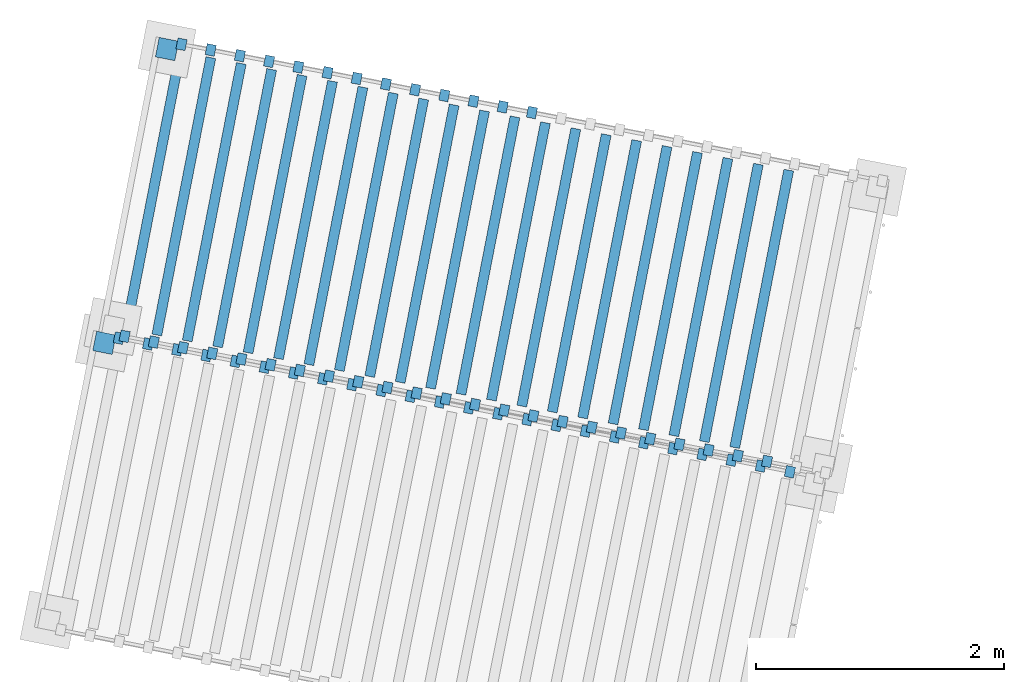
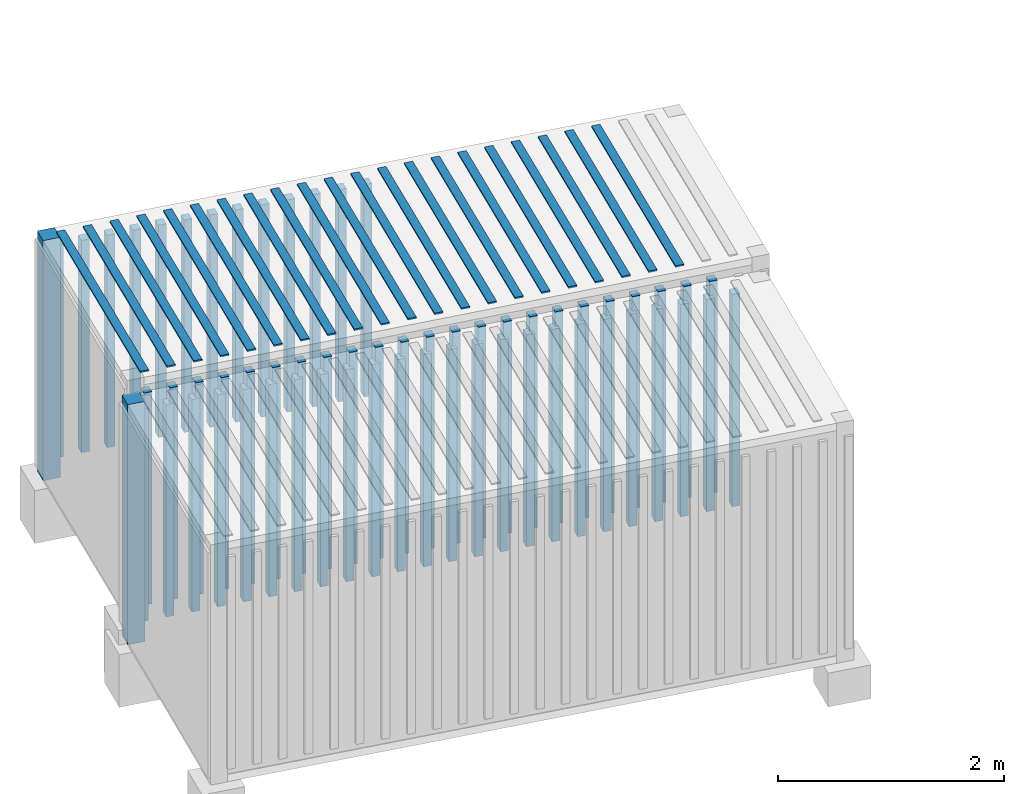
# One storey, part 85 of 143: 83 members, 2 elements without a shape of their own.
"""IFC4 building model written with IfcOpenShell, lengths in metres."""

from ifc_helpers import new_model, si_unit, direction, frame, origin_with_axes, place, context, subcontext, project, spatial, polyline, outline, extrude, material, element, aggregate, save


model = new_model("IFC4")

# Units and contexts
model_context = context("Model", 3, precision=1e-05, world=origin_with_axes(), true_north=direction((0.0, 1.0)))
body_context = subcontext(model_context, "Body", "Model", "MODEL_VIEW")
ifc_project = project(units=[si_unit("VOLUMEUNIT", "CUBIC_METRE"), si_unit("LENGTHUNIT", "METRE"), si_unit("AREAUNIT", "SQUARE_METRE")], contexts=[model_context])

# Site, building, storey
site_placement = place(None, origin_with_axes())
site = spatial("IfcSite", under=ifc_project, at=site_placement, Name="Lares · Rua das Mercês · artigo 4771")
building_placement = place(site_placement, frame((15.0, 9.7, 15.8), z_axis=(0.0, 0.0, 1.0), x_axis=(0.989015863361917, -0.147809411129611, 0.0)))
building = spatial("IfcBuilding", under=site, at=building_placement, Name="Casa Sobreposta")
storey_placement = place(building_placement, origin_with_axes())
storey = spatial("IfcBuildingStorey", under=building, at=storey_placement, Name="00 · Habitação e estacionamento", Elevation=15.8)

# Assembly, members
assembly_1_placement = place(storey_placement, frame((-14.4335953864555, 9.04888612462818, 0.0), z_axis=(0.0, 0.0, 1.0), x_axis=(0.999032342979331, -0.0439815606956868, 0.0)))
assembly_1 = element("IfcElementAssembly", 1, at=assembly_1_placement, inside=storey, Name="Contentor existente 1 · 6 m", ObjectType="EXISTING_SHIPPING_CONTAINER", PredefinedType="USERDEFINED")
ifc_material_1 = material(Name="Contentor · pintura 1", Category="steel")
member_1_placement = place(assembly_1_placement, frame((0.0, 0.0, -2.16314181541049), z_axis=(0.0, 0.0, 1.0), x_axis=(1.0, 0.0, 0.0)))
member_1 = element("IfcMember", 2, at=member_1_placement, material=ifc_material_1, Name="Contentor · canto", context=body_context, shape_type="SweptSolid", body=[
    extrude(outline(polyline([(0.16, 2.28), (0.16, 2.44), (0.0, 2.44), (0.0, 2.28), (0.16, 2.28)])), origin_with_axes(), (0.0, 0.0, 1.0), 2.59),
])
member_2_placement = place(assembly_1_placement, frame((0.0, 0.0, -2.01314181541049), z_axis=(0.0, 0.0, 1.0), x_axis=(1.0, 0.0, 0.0)))
member_2 = element("IfcMember", 3, at=member_2_placement, material=ifc_material_1, Name="Contentor · nervura lateral", context=body_context, shape_type="SweptSolid", body=[
    extrude(outline(polyline([(0.225, -0.025), (0.225, 0.065), (0.15, 0.065), (0.15, -0.025), (0.225, -0.025)])), origin_with_axes(), (0.0, 0.0, 1.0), 2.29),
])
member_3_placement = place(assembly_1_placement, frame((0.0, 0.0, -2.01314181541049), z_axis=(0.0, 0.0, 1.0), x_axis=(1.0, 0.0, 0.0)))
member_3 = element("IfcMember", 4, at=member_3_placement, material=ifc_material_1, Name="Contentor · nervura lateral", context=body_context, shape_type="SweptSolid", body=[
    extrude(outline(polyline([(0.465, -0.025), (0.465, 0.065), (0.39, 0.065), (0.39, -0.025), (0.465, -0.025)])), origin_with_axes(), (0.0, 0.0, 1.0), 2.29),
])
member_4_placement = place(assembly_1_placement, frame((0.0, 0.0, -2.01314181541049), z_axis=(0.0, 0.0, 1.0), x_axis=(1.0, 0.0, 0.0)))
member_4 = element("IfcMember", 5, at=member_4_placement, material=ifc_material_1, Name="Contentor · nervura lateral", context=body_context, shape_type="SweptSolid", body=[
    extrude(outline(polyline([(0.705, -0.025), (0.705, 0.065), (0.63, 0.065), (0.63, -0.025), (0.705, -0.025)])), origin_with_axes(), (0.0, 0.0, 1.0), 2.29),
])
member_5_placement = place(assembly_1_placement, frame((0.0, 0.0, -2.01314181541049), z_axis=(0.0, 0.0, 1.0), x_axis=(1.0, 0.0, 0.0)))
member_5 = element("IfcMember", 6, at=member_5_placement, material=ifc_material_1, Name="Contentor · nervura lateral", context=body_context, shape_type="SweptSolid", body=[
    extrude(outline(polyline([(0.945, -0.025), (0.945, 0.065), (0.87, 0.065), (0.87, -0.025), (0.945, -0.025)])), origin_with_axes(), (0.0, 0.0, 1.0), 2.29),
])
member_6_placement = place(assembly_1_placement, frame((0.0, 0.0, -2.01314181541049), z_axis=(0.0, 0.0, 1.0), x_axis=(1.0, 0.0, 0.0)))
member_6 = element("IfcMember", 7, at=member_6_placement, material=ifc_material_1, Name="Contentor · nervura lateral", context=body_context, shape_type="SweptSolid", body=[
    extrude(outline(polyline([(1.185, -0.025), (1.185, 0.065), (1.11, 0.065), (1.11, -0.025), (1.185, -0.025)])), origin_with_axes(), (0.0, 0.0, 1.0), 2.29),
])
member_7_placement = place(assembly_1_placement, frame((0.0, 0.0, -2.01314181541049), z_axis=(0.0, 0.0, 1.0), x_axis=(1.0, 0.0, 0.0)))
member_7 = element("IfcMember", 8, at=member_7_placement, material=ifc_material_1, Name="Contentor · nervura lateral", context=body_context, shape_type="SweptSolid", body=[
    extrude(outline(polyline([(1.425, -0.025), (1.425, 0.065), (1.35, 0.065), (1.35, -0.025), (1.425, -0.025)])), origin_with_axes(), (0.0, 0.0, 1.0), 2.29),
])
member_8_placement = place(assembly_1_placement, frame((0.0, 0.0, -2.01314181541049), z_axis=(0.0, 0.0, 1.0), x_axis=(1.0, 0.0, 0.0)))
member_8 = element("IfcMember", 9, at=member_8_placement, material=ifc_material_1, Name="Contentor · nervura lateral", context=body_context, shape_type="SweptSolid", body=[
    extrude(outline(polyline([(1.665, -0.025), (1.665, 0.065), (1.59, 0.065), (1.59, -0.025), (1.665, -0.025)])), origin_with_axes(), (0.0, 0.0, 1.0), 2.29),
])
member_9_placement = place(assembly_1_placement, frame((0.0, 0.0, -2.01314181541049), z_axis=(0.0, 0.0, 1.0), x_axis=(1.0, 0.0, 0.0)))
member_9 = element("IfcMember", 10, at=member_9_placement, material=ifc_material_1, Name="Contentor · nervura lateral", context=body_context, shape_type="SweptSolid", body=[
    extrude(outline(polyline([(1.905, -0.025), (1.905, 0.065), (1.83, 0.065), (1.83, -0.025), (1.905, -0.025)])), origin_with_axes(), (0.0, 0.0, 1.0), 2.29),
])
member_10_placement = place(assembly_1_placement, frame((0.0, 0.0, -2.01314181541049), z_axis=(0.0, 0.0, 1.0), x_axis=(1.0, 0.0, 0.0)))
member_10 = element("IfcMember", 11, at=member_10_placement, material=ifc_material_1, Name="Contentor · nervura lateral", context=body_context, shape_type="SweptSolid", body=[
    extrude(outline(polyline([(2.145, -0.025), (2.145, 0.065), (2.07, 0.065), (2.07, -0.025), (2.145, -0.025)])), origin_with_axes(), (0.0, 0.0, 1.0), 2.29),
])
member_11_placement = place(assembly_1_placement, frame((0.0, 0.0, -2.01314181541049), z_axis=(0.0, 0.0, 1.0), x_axis=(1.0, 0.0, 0.0)))
member_11 = element("IfcMember", 12, at=member_11_placement, material=ifc_material_1, Name="Contentor · nervura lateral", context=body_context, shape_type="SweptSolid", body=[
    extrude(outline(polyline([(2.385, -0.025), (2.385, 0.065), (2.31, 0.065), (2.31, -0.025), (2.385, -0.025)])), origin_with_axes(), (0.0, 0.0, 1.0), 2.29),
])
member_12_placement = place(assembly_1_placement, frame((0.0, 0.0, -2.01314181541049), z_axis=(0.0, 0.0, 1.0), x_axis=(1.0, 0.0, 0.0)))
member_12 = element("IfcMember", 13, at=member_12_placement, material=ifc_material_1, Name="Contentor · nervura lateral", context=body_context, shape_type="SweptSolid", body=[
    extrude(outline(polyline([(2.625, -0.025), (2.625, 0.065), (2.55, 0.065), (2.55, -0.025), (2.625, -0.025)])), origin_with_axes(), (0.0, 0.0, 1.0), 2.29),
])
member_13_placement = place(assembly_1_placement, frame((0.0, 0.0, -2.01314181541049), z_axis=(0.0, 0.0, 1.0), x_axis=(1.0, 0.0, 0.0)))
member_13 = element("IfcMember", 14, at=member_13_placement, material=ifc_material_1, Name="Contentor · nervura lateral", context=body_context, shape_type="SweptSolid", body=[
    extrude(outline(polyline([(2.865, -0.025), (2.865, 0.065), (2.79, 0.065), (2.79, -0.025), (2.865, -0.025)])), origin_with_axes(), (0.0, 0.0, 1.0), 2.29),
])
member_14_placement = place(assembly_1_placement, frame((0.0, 0.0, -2.01314181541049), z_axis=(0.0, 0.0, 1.0), x_axis=(1.0, 0.0, 0.0)))
member_14 = element("IfcMember", 15, at=member_14_placement, material=ifc_material_1, Name="Contentor · nervura lateral", context=body_context, shape_type="SweptSolid", body=[
    extrude(outline(polyline([(3.105, -0.025), (3.105, 0.065), (3.03, 0.065), (3.03, -0.025), (3.105, -0.025)])), origin_with_axes(), (0.0, 0.0, 1.0), 2.29),
])
member_15_placement = place(assembly_1_placement, frame((0.0, 0.0, -2.01314181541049), z_axis=(0.0, 0.0, 1.0), x_axis=(1.0, 0.0, 0.0)))
member_15 = element("IfcMember", 16, at=member_15_placement, material=ifc_material_1, Name="Contentor · nervura lateral", context=body_context, shape_type="SweptSolid", body=[
    extrude(outline(polyline([(3.345, -0.025), (3.345, 0.065), (3.27, 0.065), (3.27, -0.025), (3.345, -0.025)])), origin_with_axes(), (0.0, 0.0, 1.0), 2.29),
])
member_16_placement = place(assembly_1_placement, frame((0.0, 0.0, -2.01314181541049), z_axis=(0.0, 0.0, 1.0), x_axis=(1.0, 0.0, 0.0)))
member_16 = element("IfcMember", 17, at=member_16_placement, material=ifc_material_1, Name="Contentor · nervura lateral", context=body_context, shape_type="SweptSolid", body=[
    extrude(outline(polyline([(3.585, -0.025), (3.585, 0.065), (3.51, 0.065), (3.51, -0.025), (3.585, -0.025)])), origin_with_axes(), (0.0, 0.0, 1.0), 2.29),
])
member_17_placement = place(assembly_1_placement, frame((0.0, 0.0, -2.01314181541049), z_axis=(0.0, 0.0, 1.0), x_axis=(1.0, 0.0, 0.0)))
member_17 = element("IfcMember", 18, at=member_17_placement, material=ifc_material_1, Name="Contentor · nervura lateral", context=body_context, shape_type="SweptSolid", body=[
    extrude(outline(polyline([(3.825, -0.025), (3.825, 0.065), (3.75, 0.065), (3.75, -0.025), (3.825, -0.025)])), origin_with_axes(), (0.0, 0.0, 1.0), 2.29),
])
member_18_placement = place(assembly_1_placement, frame((0.0, 0.0, -2.01314181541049), z_axis=(0.0, 0.0, 1.0), x_axis=(1.0, 0.0, 0.0)))
member_18 = element("IfcMember", 19, at=member_18_placement, material=ifc_material_1, Name="Contentor · nervura lateral", context=body_context, shape_type="SweptSolid", body=[
    extrude(outline(polyline([(4.065, -0.025), (4.065, 0.065), (3.99, 0.065), (3.99, -0.025), (4.065, -0.025)])), origin_with_axes(), (0.0, 0.0, 1.0), 2.29),
])
member_19_placement = place(assembly_1_placement, frame((0.0, 0.0, -2.01314181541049), z_axis=(0.0, 0.0, 1.0), x_axis=(1.0, 0.0, 0.0)))
member_19 = element("IfcMember", 20, at=member_19_placement, material=ifc_material_1, Name="Contentor · nervura lateral", context=body_context, shape_type="SweptSolid", body=[
    extrude(outline(polyline([(4.305, -0.025), (4.305, 0.065), (4.23, 0.065), (4.23, -0.025), (4.305, -0.025)])), origin_with_axes(), (0.0, 0.0, 1.0), 2.29),
])
member_20_placement = place(assembly_1_placement, frame((0.0, 0.0, -2.01314181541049), z_axis=(0.0, 0.0, 1.0), x_axis=(1.0, 0.0, 0.0)))
member_20 = element("IfcMember", 21, at=member_20_placement, material=ifc_material_1, Name="Contentor · nervura lateral", context=body_context, shape_type="SweptSolid", body=[
    extrude(outline(polyline([(4.545, -0.025), (4.545, 0.065), (4.47, 0.065), (4.47, -0.025), (4.545, -0.025)])), origin_with_axes(), (0.0, 0.0, 1.0), 2.29),
])
member_21_placement = place(assembly_1_placement, frame((0.0, 0.0, -2.01314181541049), z_axis=(0.0, 0.0, 1.0), x_axis=(1.0, 0.0, 0.0)))
member_21 = element("IfcMember", 22, at=member_21_placement, material=ifc_material_1, Name="Contentor · nervura lateral", context=body_context, shape_type="SweptSolid", body=[
    extrude(outline(polyline([(4.785, -0.025), (4.785, 0.065), (4.71, 0.065), (4.71, -0.025), (4.785, -0.025)])), origin_with_axes(), (0.0, 0.0, 1.0), 2.29),
])
member_22_placement = place(assembly_1_placement, frame((0.0, 0.0, -2.01314181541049), z_axis=(0.0, 0.0, 1.0), x_axis=(1.0, 0.0, 0.0)))
member_22 = element("IfcMember", 23, at=member_22_placement, material=ifc_material_1, Name="Contentor · nervura lateral", context=body_context, shape_type="SweptSolid", body=[
    extrude(outline(polyline([(5.025, -0.025), (5.025, 0.065), (4.95, 0.065), (4.95, -0.025), (5.025, -0.025)])), origin_with_axes(), (0.0, 0.0, 1.0), 2.29),
])
member_23_placement = place(assembly_1_placement, frame((0.0, 0.0, -2.01314181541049), z_axis=(0.0, 0.0, 1.0), x_axis=(1.0, 0.0, 0.0)))
member_23 = element("IfcMember", 24, at=member_23_placement, material=ifc_material_1, Name="Contentor · nervura lateral", context=body_context, shape_type="SweptSolid", body=[
    extrude(outline(polyline([(5.265, -0.025), (5.265, 0.065), (5.19, 0.065), (5.19, -0.025), (5.265, -0.025)])), origin_with_axes(), (0.0, 0.0, 1.0), 2.29),
])
member_24_placement = place(assembly_1_placement, frame((0.0, 0.0, -2.01314181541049), z_axis=(0.0, 0.0, 1.0), x_axis=(1.0, 0.0, 0.0)))
member_24 = element("IfcMember", 25, at=member_24_placement, material=ifc_material_1, Name="Contentor · nervura lateral", context=body_context, shape_type="SweptSolid", body=[
    extrude(outline(polyline([(5.505, -0.025), (5.505, 0.065), (5.43, 0.065), (5.43, -0.025), (5.505, -0.025)])), origin_with_axes(), (0.0, 0.0, 1.0), 2.29),
])
member_25_placement = place(assembly_1_placement, frame((0.0, 0.0, -2.01314181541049), z_axis=(0.0, 0.0, 1.0), x_axis=(1.0, 0.0, 0.0)))
member_25 = element("IfcMember", 26, at=member_25_placement, material=ifc_material_1, Name="Contentor · nervura lateral", context=body_context, shape_type="SweptSolid", body=[
    extrude(outline(polyline([(0.225, 2.375), (0.225, 2.465), (0.15, 2.465), (0.15, 2.375), (0.225, 2.375)])), origin_with_axes(), (0.0, 0.0, 1.0), 2.29),
])
member_26_placement = place(assembly_1_placement, frame((0.0, 0.0, -2.01314181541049), z_axis=(0.0, 0.0, 1.0), x_axis=(1.0, 0.0, 0.0)))
member_26 = element("IfcMember", 27, at=member_26_placement, material=ifc_material_1, Name="Contentor · nervura lateral", context=body_context, shape_type="SweptSolid", body=[
    extrude(outline(polyline([(0.465, 2.375), (0.465, 2.465), (0.39, 2.465), (0.39, 2.375), (0.465, 2.375)])), origin_with_axes(), (0.0, 0.0, 1.0), 2.29),
])
member_27_placement = place(assembly_1_placement, frame((0.0, 0.0, -2.01314181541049), z_axis=(0.0, 0.0, 1.0), x_axis=(1.0, 0.0, 0.0)))
member_27 = element("IfcMember", 28, at=member_27_placement, material=ifc_material_1, Name="Contentor · nervura lateral", context=body_context, shape_type="SweptSolid", body=[
    extrude(outline(polyline([(0.705, 2.375), (0.705, 2.465), (0.63, 2.465), (0.63, 2.375), (0.705, 2.375)])), origin_with_axes(), (0.0, 0.0, 1.0), 2.29),
])
member_28_placement = place(assembly_1_placement, frame((0.0, 0.0, -2.01314181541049), z_axis=(0.0, 0.0, 1.0), x_axis=(1.0, 0.0, 0.0)))
member_28 = element("IfcMember", 29, at=member_28_placement, material=ifc_material_1, Name="Contentor · nervura lateral", context=body_context, shape_type="SweptSolid", body=[
    extrude(outline(polyline([(0.945, 2.375), (0.945, 2.465), (0.87, 2.465), (0.87, 2.375), (0.945, 2.375)])), origin_with_axes(), (0.0, 0.0, 1.0), 2.29),
])
member_29_placement = place(assembly_1_placement, frame((0.0, 0.0, -2.01314181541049), z_axis=(0.0, 0.0, 1.0), x_axis=(1.0, 0.0, 0.0)))
member_29 = element("IfcMember", 30, at=member_29_placement, material=ifc_material_1, Name="Contentor · nervura lateral", context=body_context, shape_type="SweptSolid", body=[
    extrude(outline(polyline([(1.185, 2.375), (1.185, 2.465), (1.11, 2.465), (1.11, 2.375), (1.185, 2.375)])), origin_with_axes(), (0.0, 0.0, 1.0), 2.29),
])
member_30_placement = place(assembly_1_placement, frame((0.0, 0.0, -2.01314181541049), z_axis=(0.0, 0.0, 1.0), x_axis=(1.0, 0.0, 0.0)))
member_30 = element("IfcMember", 31, at=member_30_placement, material=ifc_material_1, Name="Contentor · nervura lateral", context=body_context, shape_type="SweptSolid", body=[
    extrude(outline(polyline([(1.425, 2.375), (1.425, 2.465), (1.35, 2.465), (1.35, 2.375), (1.425, 2.375)])), origin_with_axes(), (0.0, 0.0, 1.0), 2.29),
])
member_31_placement = place(assembly_1_placement, frame((0.0, 0.0, -2.01314181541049), z_axis=(0.0, 0.0, 1.0), x_axis=(1.0, 0.0, 0.0)))
member_31 = element("IfcMember", 32, at=member_31_placement, material=ifc_material_1, Name="Contentor · nervura lateral", context=body_context, shape_type="SweptSolid", body=[
    extrude(outline(polyline([(1.665, 2.375), (1.665, 2.465), (1.59, 2.465), (1.59, 2.375), (1.665, 2.375)])), origin_with_axes(), (0.0, 0.0, 1.0), 2.29),
])
member_32_placement = place(assembly_1_placement, frame((0.0, 0.0, -2.01314181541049), z_axis=(0.0, 0.0, 1.0), x_axis=(1.0, 0.0, 0.0)))
member_32 = element("IfcMember", 33, at=member_32_placement, material=ifc_material_1, Name="Contentor · nervura lateral", context=body_context, shape_type="SweptSolid", body=[
    extrude(outline(polyline([(1.905, 2.375), (1.905, 2.465), (1.83, 2.465), (1.83, 2.375), (1.905, 2.375)])), origin_with_axes(), (0.0, 0.0, 1.0), 2.29),
])
member_33_placement = place(assembly_1_placement, frame((0.0, 0.0, -2.01314181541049), z_axis=(0.0, 0.0, 1.0), x_axis=(1.0, 0.0, 0.0)))
member_33 = element("IfcMember", 34, at=member_33_placement, material=ifc_material_1, Name="Contentor · nervura lateral", context=body_context, shape_type="SweptSolid", body=[
    extrude(outline(polyline([(2.145, 2.375), (2.145, 2.465), (2.07, 2.465), (2.07, 2.375), (2.145, 2.375)])), origin_with_axes(), (0.0, 0.0, 1.0), 2.29),
])
member_34_placement = place(assembly_1_placement, frame((0.0, 0.0, -2.01314181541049), z_axis=(0.0, 0.0, 1.0), x_axis=(1.0, 0.0, 0.0)))
member_34 = element("IfcMember", 35, at=member_34_placement, material=ifc_material_1, Name="Contentor · nervura lateral", context=body_context, shape_type="SweptSolid", body=[
    extrude(outline(polyline([(2.385, 2.375), (2.385, 2.465), (2.31, 2.465), (2.31, 2.375), (2.385, 2.375)])), origin_with_axes(), (0.0, 0.0, 1.0), 2.29),
])
member_35_placement = place(assembly_1_placement, frame((0.0, 0.0, -2.01314181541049), z_axis=(0.0, 0.0, 1.0), x_axis=(1.0, 0.0, 0.0)))
member_35 = element("IfcMember", 36, at=member_35_placement, material=ifc_material_1, Name="Contentor · nervura lateral", context=body_context, shape_type="SweptSolid", body=[
    extrude(outline(polyline([(2.625, 2.375), (2.625, 2.465), (2.55, 2.465), (2.55, 2.375), (2.625, 2.375)])), origin_with_axes(), (0.0, 0.0, 1.0), 2.29),
])
member_36_placement = place(assembly_1_placement, frame((0.0, 0.0, -2.01314181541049), z_axis=(0.0, 0.0, 1.0), x_axis=(1.0, 0.0, 0.0)))
member_36 = element("IfcMember", 37, at=member_36_placement, material=ifc_material_1, Name="Contentor · nervura lateral", context=body_context, shape_type="SweptSolid", body=[
    extrude(outline(polyline([(2.865, 2.375), (2.865, 2.465), (2.79, 2.465), (2.79, 2.375), (2.865, 2.375)])), origin_with_axes(), (0.0, 0.0, 1.0), 2.29),
])
member_37_placement = place(assembly_1_placement, frame((0.0, 0.0, -2.01314181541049), z_axis=(0.0, 0.0, 1.0), x_axis=(1.0, 0.0, 0.0)))
member_37 = element("IfcMember", 38, at=member_37_placement, material=ifc_material_1, Name="Contentor · nervura lateral", context=body_context, shape_type="SweptSolid", body=[
    extrude(outline(polyline([(3.105, 2.375), (3.105, 2.465), (3.03, 2.465), (3.03, 2.375), (3.105, 2.375)])), origin_with_axes(), (0.0, 0.0, 1.0), 2.29),
])
member_38_placement = place(assembly_1_placement, frame((0.0, 0.0, 0.421858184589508), z_axis=(0.0, 0.0, 1.0), x_axis=(1.0, 0.0, 0.0)))
member_38 = element("IfcMember", 39, at=member_38_placement, material=ifc_material_1, Name="Contentor · nervura cobertura", context=body_context, shape_type="SweptSolid", body=[
    extrude(outline(polyline([(0.23, 0.08), (0.23, 2.36), (0.15, 2.36), (0.15, 0.08), (0.23, 0.08)])), origin_with_axes(), (0.0, 0.0, 1.0), 0.018),
])
member_39_placement = place(assembly_1_placement, frame((0.0, 0.0, 0.421858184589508), z_axis=(0.0, 0.0, 1.0), x_axis=(1.0, 0.0, 0.0)))
member_39 = element("IfcMember", 40, at=member_39_placement, material=ifc_material_1, Name="Contentor · nervura cobertura", context=body_context, shape_type="SweptSolid", body=[
    extrude(outline(polyline([(0.48, 0.08), (0.48, 2.36), (0.4, 2.36), (0.4, 0.08), (0.48, 0.08)])), origin_with_axes(), (0.0, 0.0, 1.0), 0.018),
])
member_40_placement = place(assembly_1_placement, frame((0.0, 0.0, 0.421858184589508), z_axis=(0.0, 0.0, 1.0), x_axis=(1.0, 0.0, 0.0)))
member_40 = element("IfcMember", 41, at=member_40_placement, material=ifc_material_1, Name="Contentor · nervura cobertura", context=body_context, shape_type="SweptSolid", body=[
    extrude(outline(polyline([(0.73, 0.08), (0.73, 2.36), (0.65, 2.36), (0.65, 0.08), (0.73, 0.08)])), origin_with_axes(), (0.0, 0.0, 1.0), 0.018),
])
member_41_placement = place(assembly_1_placement, frame((0.0, 0.0, 0.421858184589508), z_axis=(0.0, 0.0, 1.0), x_axis=(1.0, 0.0, 0.0)))
member_41 = element("IfcMember", 42, at=member_41_placement, material=ifc_material_1, Name="Contentor · nervura cobertura", context=body_context, shape_type="SweptSolid", body=[
    extrude(outline(polyline([(0.98, 0.08), (0.98, 2.36), (0.9, 2.36), (0.9, 0.08), (0.98, 0.08)])), origin_with_axes(), (0.0, 0.0, 1.0), 0.018),
])
member_42_placement = place(assembly_1_placement, frame((0.0, 0.0, 0.421858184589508), z_axis=(0.0, 0.0, 1.0), x_axis=(1.0, 0.0, 0.0)))
member_42 = element("IfcMember", 43, at=member_42_placement, material=ifc_material_1, Name="Contentor · nervura cobertura", context=body_context, shape_type="SweptSolid", body=[
    extrude(outline(polyline([(1.23, 0.08), (1.23, 2.36), (1.15, 2.36), (1.15, 0.08), (1.23, 0.08)])), origin_with_axes(), (0.0, 0.0, 1.0), 0.018),
])
member_43_placement = place(assembly_1_placement, frame((0.0, 0.0, 0.421858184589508), z_axis=(0.0, 0.0, 1.0), x_axis=(1.0, 0.0, 0.0)))
member_43 = element("IfcMember", 44, at=member_43_placement, material=ifc_material_1, Name="Contentor · nervura cobertura", context=body_context, shape_type="SweptSolid", body=[
    extrude(outline(polyline([(1.48, 0.08), (1.48, 2.36), (1.4, 2.36), (1.4, 0.08), (1.48, 0.08)])), origin_with_axes(), (0.0, 0.0, 1.0), 0.018),
])
member_44_placement = place(assembly_1_placement, frame((0.0, 0.0, 0.421858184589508), z_axis=(0.0, 0.0, 1.0), x_axis=(1.0, 0.0, 0.0)))
member_44 = element("IfcMember", 45, at=member_44_placement, material=ifc_material_1, Name="Contentor · nervura cobertura", context=body_context, shape_type="SweptSolid", body=[
    extrude(outline(polyline([(1.73, 0.08), (1.73, 2.36), (1.65, 2.36), (1.65, 0.08), (1.73, 0.08)])), origin_with_axes(), (0.0, 0.0, 1.0), 0.018),
])
member_45_placement = place(assembly_1_placement, frame((0.0, 0.0, 0.421858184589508), z_axis=(0.0, 0.0, 1.0), x_axis=(1.0, 0.0, 0.0)))
member_45 = element("IfcMember", 46, at=member_45_placement, material=ifc_material_1, Name="Contentor · nervura cobertura", context=body_context, shape_type="SweptSolid", body=[
    extrude(outline(polyline([(1.98, 0.08), (1.98, 2.36), (1.9, 2.36), (1.9, 0.08), (1.98, 0.08)])), origin_with_axes(), (0.0, 0.0, 1.0), 0.018),
])
member_46_placement = place(assembly_1_placement, frame((0.0, 0.0, 0.421858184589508), z_axis=(0.0, 0.0, 1.0), x_axis=(1.0, 0.0, 0.0)))
member_46 = element("IfcMember", 47, at=member_46_placement, material=ifc_material_1, Name="Contentor · nervura cobertura", context=body_context, shape_type="SweptSolid", body=[
    extrude(outline(polyline([(2.23, 0.08), (2.23, 2.36), (2.15, 2.36), (2.15, 0.08), (2.23, 0.08)])), origin_with_axes(), (0.0, 0.0, 1.0), 0.018),
])
member_47_placement = place(assembly_1_placement, frame((0.0, 0.0, 0.421858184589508), z_axis=(0.0, 0.0, 1.0), x_axis=(1.0, 0.0, 0.0)))
member_47 = element("IfcMember", 48, at=member_47_placement, material=ifc_material_1, Name="Contentor · nervura cobertura", context=body_context, shape_type="SweptSolid", body=[
    extrude(outline(polyline([(2.48, 0.08), (2.48, 2.36), (2.4, 2.36), (2.4, 0.08), (2.48, 0.08)])), origin_with_axes(), (0.0, 0.0, 1.0), 0.018),
])
member_48_placement = place(assembly_1_placement, frame((0.0, 0.0, 0.421858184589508), z_axis=(0.0, 0.0, 1.0), x_axis=(1.0, 0.0, 0.0)))
member_48 = element("IfcMember", 49, at=member_48_placement, material=ifc_material_1, Name="Contentor · nervura cobertura", context=body_context, shape_type="SweptSolid", body=[
    extrude(outline(polyline([(2.73, 0.08), (2.73, 2.36), (2.65, 2.36), (2.65, 0.08), (2.73, 0.08)])), origin_with_axes(), (0.0, 0.0, 1.0), 0.018),
])
member_49_placement = place(assembly_1_placement, frame((0.0, 0.0, 0.421858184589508), z_axis=(0.0, 0.0, 1.0), x_axis=(1.0, 0.0, 0.0)))
member_49 = element("IfcMember", 50, at=member_49_placement, material=ifc_material_1, Name="Contentor · nervura cobertura", context=body_context, shape_type="SweptSolid", body=[
    extrude(outline(polyline([(2.98, 0.08), (2.98, 2.36), (2.9, 2.36), (2.9, 0.08), (2.98, 0.08)])), origin_with_axes(), (0.0, 0.0, 1.0), 0.018),
])
member_50_placement = place(assembly_1_placement, frame((0.0, 0.0, 0.421858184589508), z_axis=(0.0, 0.0, 1.0), x_axis=(1.0, 0.0, 0.0)))
member_50 = element("IfcMember", 51, at=member_50_placement, material=ifc_material_1, Name="Contentor · nervura cobertura", context=body_context, shape_type="SweptSolid", body=[
    extrude(outline(polyline([(3.23, 0.08), (3.23, 2.36), (3.15, 2.36), (3.15, 0.08), (3.23, 0.08)])), origin_with_axes(), (0.0, 0.0, 1.0), 0.018),
])
member_51_placement = place(assembly_1_placement, frame((0.0, 0.0, 0.421858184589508), z_axis=(0.0, 0.0, 1.0), x_axis=(1.0, 0.0, 0.0)))
member_51 = element("IfcMember", 52, at=member_51_placement, material=ifc_material_1, Name="Contentor · nervura cobertura", context=body_context, shape_type="SweptSolid", body=[
    extrude(outline(polyline([(3.48, 0.08), (3.48, 2.36), (3.4, 2.36), (3.4, 0.08), (3.48, 0.08)])), origin_with_axes(), (0.0, 0.0, 1.0), 0.018),
])
member_52_placement = place(assembly_1_placement, frame((0.0, 0.0, 0.421858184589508), z_axis=(0.0, 0.0, 1.0), x_axis=(1.0, 0.0, 0.0)))
member_52 = element("IfcMember", 53, at=member_52_placement, material=ifc_material_1, Name="Contentor · nervura cobertura", context=body_context, shape_type="SweptSolid", body=[
    extrude(outline(polyline([(3.73, 0.08), (3.73, 2.36), (3.65, 2.36), (3.65, 0.08), (3.73, 0.08)])), origin_with_axes(), (0.0, 0.0, 1.0), 0.018),
])
member_53_placement = place(assembly_1_placement, frame((0.0, 0.0, 0.421858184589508), z_axis=(0.0, 0.0, 1.0), x_axis=(1.0, 0.0, 0.0)))
member_53 = element("IfcMember", 54, at=member_53_placement, material=ifc_material_1, Name="Contentor · nervura cobertura", context=body_context, shape_type="SweptSolid", body=[
    extrude(outline(polyline([(3.98, 0.08), (3.98, 2.36), (3.9, 2.36), (3.9, 0.08), (3.98, 0.08)])), origin_with_axes(), (0.0, 0.0, 1.0), 0.018),
])
member_54_placement = place(assembly_1_placement, frame((0.0, 0.0, 0.421858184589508), z_axis=(0.0, 0.0, 1.0), x_axis=(1.0, 0.0, 0.0)))
member_54 = element("IfcMember", 55, at=member_54_placement, material=ifc_material_1, Name="Contentor · nervura cobertura", context=body_context, shape_type="SweptSolid", body=[
    extrude(outline(polyline([(4.23, 0.08), (4.23, 2.36), (4.15, 2.36), (4.15, 0.08), (4.23, 0.08)])), origin_with_axes(), (0.0, 0.0, 1.0), 0.018),
])
member_55_placement = place(assembly_1_placement, frame((0.0, 0.0, 0.421858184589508), z_axis=(0.0, 0.0, 1.0), x_axis=(1.0, 0.0, 0.0)))
member_55 = element("IfcMember", 56, at=member_55_placement, material=ifc_material_1, Name="Contentor · nervura cobertura", context=body_context, shape_type="SweptSolid", body=[
    extrude(outline(polyline([(4.48, 0.08), (4.48, 2.36), (4.4, 2.36), (4.4, 0.08), (4.48, 0.08)])), origin_with_axes(), (0.0, 0.0, 1.0), 0.018),
])
member_56_placement = place(assembly_1_placement, frame((0.0, 0.0, 0.421858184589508), z_axis=(0.0, 0.0, 1.0), x_axis=(1.0, 0.0, 0.0)))
member_56 = element("IfcMember", 57, at=member_56_placement, material=ifc_material_1, Name="Contentor · nervura cobertura", context=body_context, shape_type="SweptSolid", body=[
    extrude(outline(polyline([(4.73, 0.08), (4.73, 2.36), (4.65, 2.36), (4.65, 0.08), (4.73, 0.08)])), origin_with_axes(), (0.0, 0.0, 1.0), 0.018),
])
member_57_placement = place(assembly_1_placement, frame((0.0, 0.0, 0.421858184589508), z_axis=(0.0, 0.0, 1.0), x_axis=(1.0, 0.0, 0.0)))
member_57 = element("IfcMember", 58, at=member_57_placement, material=ifc_material_1, Name="Contentor · nervura cobertura", context=body_context, shape_type="SweptSolid", body=[
    extrude(outline(polyline([(4.98, 0.08), (4.98, 2.36), (4.9, 2.36), (4.9, 0.08), (4.98, 0.08)])), origin_with_axes(), (0.0, 0.0, 1.0), 0.018),
])
member_58_placement = place(assembly_1_placement, frame((0.0, 0.0, 0.421858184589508), z_axis=(0.0, 0.0, 1.0), x_axis=(1.0, 0.0, 0.0)))
member_58 = element("IfcMember", 59, at=member_58_placement, material=ifc_material_1, Name="Contentor · nervura cobertura", context=body_context, shape_type="SweptSolid", body=[
    extrude(outline(polyline([(5.23, 0.08), (5.23, 2.36), (5.15, 2.36), (5.15, 0.08), (5.23, 0.08)])), origin_with_axes(), (0.0, 0.0, 1.0), 0.018),
])
aggregate(assembly_1, [member_1, member_2, member_3, member_4, member_5, member_6, member_7, member_8, member_9, member_10, member_11, member_12, member_13, member_14, member_15, member_16, member_17, member_18, member_19, member_20, member_21, member_22, member_23, member_24, member_25, member_26, member_27, member_28, member_29, member_30, member_31, member_32, member_33, member_34, member_35, member_36, member_37, member_38, member_39, member_40, member_41, member_42, member_43, member_44, member_45, member_46, member_47, member_48, member_49, member_50, member_51, member_52, member_53, member_54, member_55, member_56, member_57, member_58])

assembly_2_placement = place(storey_placement, frame((-14.5932944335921, 6.63122214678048, 0.0), z_axis=(0.0, 0.0, 1.0), x_axis=(0.998832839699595, -0.0483007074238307, 0.0)))
assembly_2 = element("IfcElementAssembly", 60, at=assembly_2_placement, inside=storey, Name="Contentor existente 2 · 6 m", ObjectType="EXISTING_SHIPPING_CONTAINER", PredefinedType="USERDEFINED")
ifc_material_2 = material(Name="Contentor · pintura 2", Category="steel")
member_59_placement = place(assembly_2_placement, frame((0.0, 0.0, -2.31875169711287), z_axis=(0.0, 0.0, 1.0), x_axis=(1.0, 0.0, 0.0)))
member_59 = element("IfcMember", 61, at=member_59_placement, material=ifc_material_2, Name="Contentor · canto", context=body_context, shape_type="SweptSolid", body=[
    extrude(outline(polyline([(0.16, 2.28), (0.16, 2.44), (0.0, 2.44), (0.0, 2.28), (0.16, 2.28)])), origin_with_axes(), (0.0, 0.0, 1.0), 2.59),
])
member_60_placement = place(assembly_2_placement, frame((0.0, 0.0, -2.16875169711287), z_axis=(0.0, 0.0, 1.0), x_axis=(1.0, 0.0, 0.0)))
member_60 = element("IfcMember", 62, at=member_60_placement, material=ifc_material_2, Name="Contentor · nervura lateral", context=body_context, shape_type="SweptSolid", body=[
    extrude(outline(polyline([(0.225, 2.375), (0.225, 2.465), (0.15, 2.465), (0.15, 2.375), (0.225, 2.375)])), origin_with_axes(), (0.0, 0.0, 1.0), 2.29),
])
member_61_placement = place(assembly_2_placement, frame((0.0, 0.0, -2.16875169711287), z_axis=(0.0, 0.0, 1.0), x_axis=(1.0, 0.0, 0.0)))
member_61 = element("IfcMember", 63, at=member_61_placement, material=ifc_material_2, Name="Contentor · nervura lateral", context=body_context, shape_type="SweptSolid", body=[
    extrude(outline(polyline([(0.465, 2.375), (0.465, 2.465), (0.39, 2.465), (0.39, 2.375), (0.465, 2.375)])), origin_with_axes(), (0.0, 0.0, 1.0), 2.29),
])
member_62_placement = place(assembly_2_placement, frame((0.0, 0.0, -2.16875169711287), z_axis=(0.0, 0.0, 1.0), x_axis=(1.0, 0.0, 0.0)))
member_62 = element("IfcMember", 64, at=member_62_placement, material=ifc_material_2, Name="Contentor · nervura lateral", context=body_context, shape_type="SweptSolid", body=[
    extrude(outline(polyline([(0.705, 2.375), (0.705, 2.465), (0.63, 2.465), (0.63, 2.375), (0.705, 2.375)])), origin_with_axes(), (0.0, 0.0, 1.0), 2.29),
])
member_63_placement = place(assembly_2_placement, frame((0.0, 0.0, -2.16875169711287), z_axis=(0.0, 0.0, 1.0), x_axis=(1.0, 0.0, 0.0)))
member_63 = element("IfcMember", 65, at=member_63_placement, material=ifc_material_2, Name="Contentor · nervura lateral", context=body_context, shape_type="SweptSolid", body=[
    extrude(outline(polyline([(0.945, 2.375), (0.945, 2.465), (0.87, 2.465), (0.87, 2.375), (0.945, 2.375)])), origin_with_axes(), (0.0, 0.0, 1.0), 2.29),
])
member_64_placement = place(assembly_2_placement, frame((0.0, 0.0, -2.16875169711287), z_axis=(0.0, 0.0, 1.0), x_axis=(1.0, 0.0, 0.0)))
member_64 = element("IfcMember", 66, at=member_64_placement, material=ifc_material_2, Name="Contentor · nervura lateral", context=body_context, shape_type="SweptSolid", body=[
    extrude(outline(polyline([(1.185, 2.375), (1.185, 2.465), (1.11, 2.465), (1.11, 2.375), (1.185, 2.375)])), origin_with_axes(), (0.0, 0.0, 1.0), 2.29),
])
member_65_placement = place(assembly_2_placement, frame((0.0, 0.0, -2.16875169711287), z_axis=(0.0, 0.0, 1.0), x_axis=(1.0, 0.0, 0.0)))
member_65 = element("IfcMember", 67, at=member_65_placement, material=ifc_material_2, Name="Contentor · nervura lateral", context=body_context, shape_type="SweptSolid", body=[
    extrude(outline(polyline([(1.425, 2.375), (1.425, 2.465), (1.35, 2.465), (1.35, 2.375), (1.425, 2.375)])), origin_with_axes(), (0.0, 0.0, 1.0), 2.29),
])
member_66_placement = place(assembly_2_placement, frame((0.0, 0.0, -2.16875169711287), z_axis=(0.0, 0.0, 1.0), x_axis=(1.0, 0.0, 0.0)))
member_66 = element("IfcMember", 68, at=member_66_placement, material=ifc_material_2, Name="Contentor · nervura lateral", context=body_context, shape_type="SweptSolid", body=[
    extrude(outline(polyline([(1.665, 2.375), (1.665, 2.465), (1.59, 2.465), (1.59, 2.375), (1.665, 2.375)])), origin_with_axes(), (0.0, 0.0, 1.0), 2.29),
])
member_67_placement = place(assembly_2_placement, frame((0.0, 0.0, -2.16875169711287), z_axis=(0.0, 0.0, 1.0), x_axis=(1.0, 0.0, 0.0)))
member_67 = element("IfcMember", 69, at=member_67_placement, material=ifc_material_2, Name="Contentor · nervura lateral", context=body_context, shape_type="SweptSolid", body=[
    extrude(outline(polyline([(1.905, 2.375), (1.905, 2.465), (1.83, 2.465), (1.83, 2.375), (1.905, 2.375)])), origin_with_axes(), (0.0, 0.0, 1.0), 2.29),
])
member_68_placement = place(assembly_2_placement, frame((0.0, 0.0, -2.16875169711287), z_axis=(0.0, 0.0, 1.0), x_axis=(1.0, 0.0, 0.0)))
member_68 = element("IfcMember", 70, at=member_68_placement, material=ifc_material_2, Name="Contentor · nervura lateral", context=body_context, shape_type="SweptSolid", body=[
    extrude(outline(polyline([(2.145, 2.375), (2.145, 2.465), (2.07, 2.465), (2.07, 2.375), (2.145, 2.375)])), origin_with_axes(), (0.0, 0.0, 1.0), 2.29),
])
member_69_placement = place(assembly_2_placement, frame((0.0, 0.0, -2.16875169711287), z_axis=(0.0, 0.0, 1.0), x_axis=(1.0, 0.0, 0.0)))
member_69 = element("IfcMember", 71, at=member_69_placement, material=ifc_material_2, Name="Contentor · nervura lateral", context=body_context, shape_type="SweptSolid", body=[
    extrude(outline(polyline([(2.385, 2.375), (2.385, 2.465), (2.31, 2.465), (2.31, 2.375), (2.385, 2.375)])), origin_with_axes(), (0.0, 0.0, 1.0), 2.29),
])
member_70_placement = place(assembly_2_placement, frame((0.0, 0.0, -2.16875169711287), z_axis=(0.0, 0.0, 1.0), x_axis=(1.0, 0.0, 0.0)))
member_70 = element("IfcMember", 72, at=member_70_placement, material=ifc_material_2, Name="Contentor · nervura lateral", context=body_context, shape_type="SweptSolid", body=[
    extrude(outline(polyline([(2.625, 2.375), (2.625, 2.465), (2.55, 2.465), (2.55, 2.375), (2.625, 2.375)])), origin_with_axes(), (0.0, 0.0, 1.0), 2.29),
])
member_71_placement = place(assembly_2_placement, frame((0.0, 0.0, -2.16875169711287), z_axis=(0.0, 0.0, 1.0), x_axis=(1.0, 0.0, 0.0)))
member_71 = element("IfcMember", 73, at=member_71_placement, material=ifc_material_2, Name="Contentor · nervura lateral", context=body_context, shape_type="SweptSolid", body=[
    extrude(outline(polyline([(2.865, 2.375), (2.865, 2.465), (2.79, 2.465), (2.79, 2.375), (2.865, 2.375)])), origin_with_axes(), (0.0, 0.0, 1.0), 2.29),
])
member_72_placement = place(assembly_2_placement, frame((0.0, 0.0, -2.16875169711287), z_axis=(0.0, 0.0, 1.0), x_axis=(1.0, 0.0, 0.0)))
member_72 = element("IfcMember", 74, at=member_72_placement, material=ifc_material_2, Name="Contentor · nervura lateral", context=body_context, shape_type="SweptSolid", body=[
    extrude(outline(polyline([(3.105, 2.375), (3.105, 2.465), (3.03, 2.465), (3.03, 2.375), (3.105, 2.375)])), origin_with_axes(), (0.0, 0.0, 1.0), 2.29),
])
member_73_placement = place(assembly_2_placement, frame((0.0, 0.0, -2.16875169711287), z_axis=(0.0, 0.0, 1.0), x_axis=(1.0, 0.0, 0.0)))
member_73 = element("IfcMember", 75, at=member_73_placement, material=ifc_material_2, Name="Contentor · nervura lateral", context=body_context, shape_type="SweptSolid", body=[
    extrude(outline(polyline([(3.345, 2.375), (3.345, 2.465), (3.27, 2.465), (3.27, 2.375), (3.345, 2.375)])), origin_with_axes(), (0.0, 0.0, 1.0), 2.29),
])
member_74_placement = place(assembly_2_placement, frame((0.0, 0.0, -2.16875169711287), z_axis=(0.0, 0.0, 1.0), x_axis=(1.0, 0.0, 0.0)))
member_74 = element("IfcMember", 76, at=member_74_placement, material=ifc_material_2, Name="Contentor · nervura lateral", context=body_context, shape_type="SweptSolid", body=[
    extrude(outline(polyline([(3.585, 2.375), (3.585, 2.465), (3.51, 2.465), (3.51, 2.375), (3.585, 2.375)])), origin_with_axes(), (0.0, 0.0, 1.0), 2.29),
])
member_75_placement = place(assembly_2_placement, frame((0.0, 0.0, -2.16875169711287), z_axis=(0.0, 0.0, 1.0), x_axis=(1.0, 0.0, 0.0)))
member_75 = element("IfcMember", 77, at=member_75_placement, material=ifc_material_2, Name="Contentor · nervura lateral", context=body_context, shape_type="SweptSolid", body=[
    extrude(outline(polyline([(3.825, 2.375), (3.825, 2.465), (3.75, 2.465), (3.75, 2.375), (3.825, 2.375)])), origin_with_axes(), (0.0, 0.0, 1.0), 2.29),
])
member_76_placement = place(assembly_2_placement, frame((0.0, 0.0, -2.16875169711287), z_axis=(0.0, 0.0, 1.0), x_axis=(1.0, 0.0, 0.0)))
member_76 = element("IfcMember", 78, at=member_76_placement, material=ifc_material_2, Name="Contentor · nervura lateral", context=body_context, shape_type="SweptSolid", body=[
    extrude(outline(polyline([(4.065, 2.375), (4.065, 2.465), (3.99, 2.465), (3.99, 2.375), (4.065, 2.375)])), origin_with_axes(), (0.0, 0.0, 1.0), 2.29),
])
member_77_placement = place(assembly_2_placement, frame((0.0, 0.0, -2.16875169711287), z_axis=(0.0, 0.0, 1.0), x_axis=(1.0, 0.0, 0.0)))
member_77 = element("IfcMember", 79, at=member_77_placement, material=ifc_material_2, Name="Contentor · nervura lateral", context=body_context, shape_type="SweptSolid", body=[
    extrude(outline(polyline([(4.305, 2.375), (4.305, 2.465), (4.23, 2.465), (4.23, 2.375), (4.305, 2.375)])), origin_with_axes(), (0.0, 0.0, 1.0), 2.29),
])
member_78_placement = place(assembly_2_placement, frame((0.0, 0.0, -2.16875169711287), z_axis=(0.0, 0.0, 1.0), x_axis=(1.0, 0.0, 0.0)))
member_78 = element("IfcMember", 80, at=member_78_placement, material=ifc_material_2, Name="Contentor · nervura lateral", context=body_context, shape_type="SweptSolid", body=[
    extrude(outline(polyline([(4.545, 2.375), (4.545, 2.465), (4.47, 2.465), (4.47, 2.375), (4.545, 2.375)])), origin_with_axes(), (0.0, 0.0, 1.0), 2.29),
])
member_79_placement = place(assembly_2_placement, frame((0.0, 0.0, -2.16875169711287), z_axis=(0.0, 0.0, 1.0), x_axis=(1.0, 0.0, 0.0)))
member_79 = element("IfcMember", 81, at=member_79_placement, material=ifc_material_2, Name="Contentor · nervura lateral", context=body_context, shape_type="SweptSolid", body=[
    extrude(outline(polyline([(4.785, 2.375), (4.785, 2.465), (4.71, 2.465), (4.71, 2.375), (4.785, 2.375)])), origin_with_axes(), (0.0, 0.0, 1.0), 2.29),
])
member_80_placement = place(assembly_2_placement, frame((0.0, 0.0, -2.16875169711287), z_axis=(0.0, 0.0, 1.0), x_axis=(1.0, 0.0, 0.0)))
member_80 = element("IfcMember", 82, at=member_80_placement, material=ifc_material_2, Name="Contentor · nervura lateral", context=body_context, shape_type="SweptSolid", body=[
    extrude(outline(polyline([(5.025, 2.375), (5.025, 2.465), (4.95, 2.465), (4.95, 2.375), (5.025, 2.375)])), origin_with_axes(), (0.0, 0.0, 1.0), 2.29),
])
member_81_placement = place(assembly_2_placement, frame((0.0, 0.0, -2.16875169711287), z_axis=(0.0, 0.0, 1.0), x_axis=(1.0, 0.0, 0.0)))
member_81 = element("IfcMember", 83, at=member_81_placement, material=ifc_material_2, Name="Contentor · nervura lateral", context=body_context, shape_type="SweptSolid", body=[
    extrude(outline(polyline([(5.265, 2.375), (5.265, 2.465), (5.19, 2.465), (5.19, 2.375), (5.265, 2.375)])), origin_with_axes(), (0.0, 0.0, 1.0), 2.29),
])
member_82_placement = place(assembly_2_placement, frame((0.0, 0.0, -2.16875169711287), z_axis=(0.0, 0.0, 1.0), x_axis=(1.0, 0.0, 0.0)))
member_82 = element("IfcMember", 84, at=member_82_placement, material=ifc_material_2, Name="Contentor · nervura lateral", context=body_context, shape_type="SweptSolid", body=[
    extrude(outline(polyline([(5.505, 2.375), (5.505, 2.465), (5.43, 2.465), (5.43, 2.375), (5.505, 2.375)])), origin_with_axes(), (0.0, 0.0, 1.0), 2.29),
])
member_83_placement = place(assembly_2_placement, frame((0.0, 0.0, -2.16875169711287), z_axis=(0.0, 0.0, 1.0), x_axis=(1.0, 0.0, 0.0)))
member_83 = element("IfcMember", 85, at=member_83_placement, material=ifc_material_2, Name="Contentor · nervura lateral", context=body_context, shape_type="SweptSolid", body=[
    extrude(outline(polyline([(5.745, 2.375), (5.745, 2.465), (5.67, 2.465), (5.67, 2.375), (5.745, 2.375)])), origin_with_axes(), (0.0, 0.0, 1.0), 2.29),
])
aggregate(assembly_2, [member_59, member_60, member_61, member_62, member_63, member_64, member_65, member_66, member_67, member_68, member_69, member_70, member_71, member_72, member_73, member_74, member_75, member_76, member_77, member_78, member_79, member_80, member_81, member_82, member_83])

save(model, "model.ifc")
